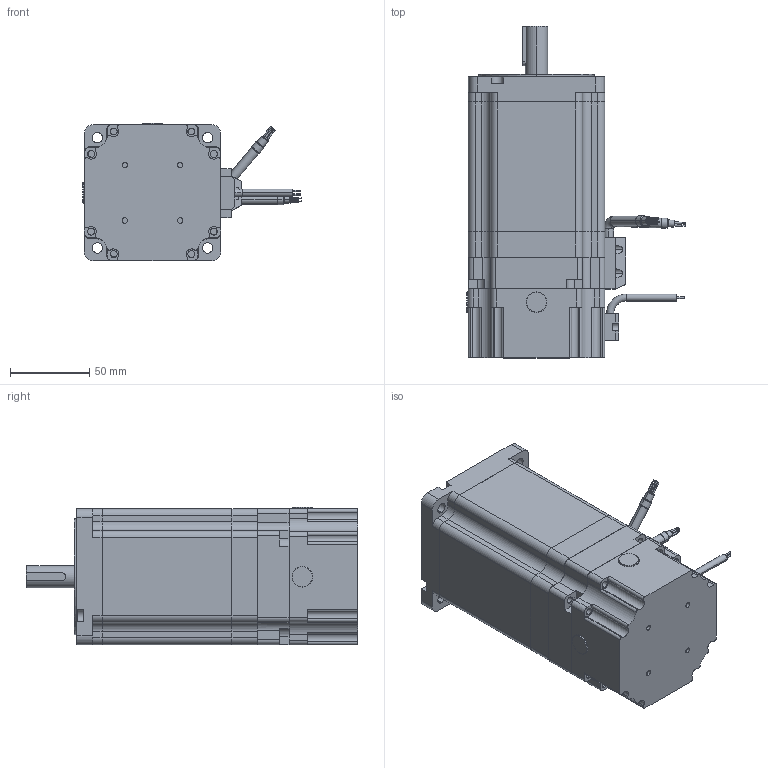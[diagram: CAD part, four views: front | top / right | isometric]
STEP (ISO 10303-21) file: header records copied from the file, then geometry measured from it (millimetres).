
FILE_DESCRIPTION (( 'STEP AP214' ), '1' );
FILE_NAME ('86HS2114-6004EB-XXX.STEP', '2023-11-01T10:00:28', ( 'MM' ), ( 'Microsoft' ), 'SwSTEP 2.0', 'SolidWorks 2020', '' );
FILE_SCHEMA (( 'AUTOMOTIVE_DESIGN' ));
Length unit declared in the file: millimetre
Products named in the file (1): 86HS2114-6004EB-XXX
Bounding box: 137.87 x 209.5 x 87 mm (x, y, z)
Volume: 1021351.1 mm3; surface area: 137608.8 mm2
Topology: 6 solids, 6 shells, 560 faces, 1473 edges, 966 vertices
Faces by surface type: cylinder 286, plane 231, torus 24, cone 12, bspline 7
Entity records: 19096 total; most frequent: CARTESIAN_POINT 3323, DIRECTION 3229, ORIENTED_EDGE 2946, EDGE_CURVE 1473, AXIS2_PLACEMENT_3D 1220, VERTEX_POINT 966, LINE 789, VECTOR 789
